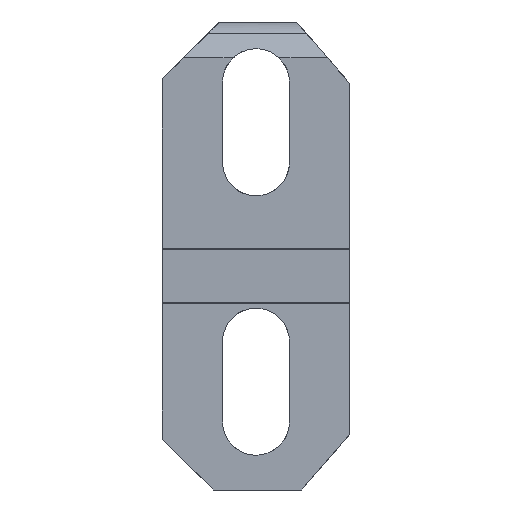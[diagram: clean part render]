
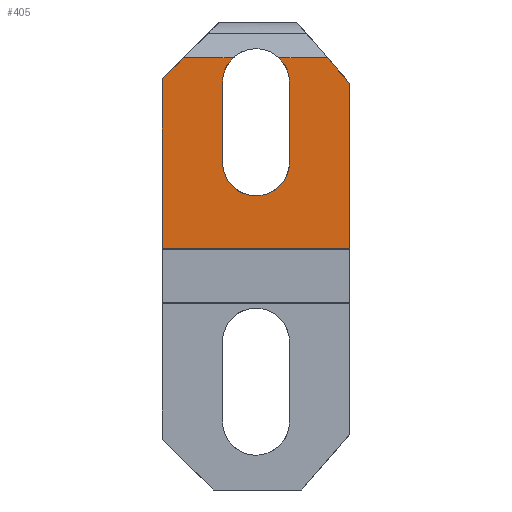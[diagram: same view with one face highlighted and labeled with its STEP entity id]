
A CAD part, left-side view. The second image highlights one B-rep face of the part: STEP entity #405.
In plain terms, the highlighted planar face has unit normal (-1, 0, 0).
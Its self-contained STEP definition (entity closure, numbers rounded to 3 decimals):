
#109=CARTESIAN_POINT('Vertex',(-8.2,-5.348,6.425)) ;
#112=CARTESIAN_POINT('Line Origine',(-8.2,-6.174,5.471)) ;
#116=CARTESIAN_POINT('Vertex',(-8.2,-7.,4.518)) ;
#302=CARTESIAN_POINT('Axis2P3D Location',(-8.2,0.,-7.651)) ;
#307=CARTESIAN_POINT('Line Origine',(-8.2,7.,-0.714)) ;
#311=CARTESIAN_POINT('Vertex',(-8.2,7.,-7.851)) ;
#313=CARTESIAN_POINT('Vertex',(-8.2,7.,4.857)) ;
#316=CARTESIAN_POINT('Line Origine',(-8.2,0.,-7.851)) ;
#320=CARTESIAN_POINT('Vertex',(-8.2,-7.,-7.851)) ;
#323=CARTESIAN_POINT('Line Origine',(-8.2,-7.,-0.714)) ;
#328=CARTESIAN_POINT('Line Origine',(-8.2,0.,6.425)) ;
#332=CARTESIAN_POINT('Vertex',(-8.2,-1.708,6.425)) ;
#336=CARTESIAN_POINT('Control Point',(-8.2,-2.5,4.599)) ;
#337=CARTESIAN_POINT('Control Point',(-8.2,-2.5,5.111)) ;
#338=CARTESIAN_POINT('Control Point',(-8.2,-2.36,5.623)) ;
#339=CARTESIAN_POINT('Control Point',(-8.2,-2.082,6.075)) ;
#340=CARTESIAN_POINT('Control Point',(-8.2,-1.708,6.425)) ;
#341=CARTESIAN_POINT('Vertex',(-8.2,-2.5,4.599)) ;
#344=CARTESIAN_POINT('Line Origine',(-8.2,-2.5,-0.714)) ;
#348=CARTESIAN_POINT('Vertex',(-8.2,-2.5,-1.401)) ;
#352=CARTESIAN_POINT('Control Point',(-8.2,2.5,-1.401)) ;
#353=CARTESIAN_POINT('Control Point',(-8.2,2.5,-2.186)) ;
#354=CARTESIAN_POINT('Control Point',(-8.2,2.192,-2.971)) ;
#355=CARTESIAN_POINT('Control Point',(-8.2,1.571,-3.592)) ;
#356=CARTESIAN_POINT('Control Point',(-8.2,0.,-4.209)) ;
#357=CARTESIAN_POINT('Control Point',(-8.2,-1.571,-3.592)) ;
#358=CARTESIAN_POINT('Control Point',(-8.2,-2.192,-2.971)) ;
#359=CARTESIAN_POINT('Control Point',(-8.2,-2.5,-2.186)) ;
#360=CARTESIAN_POINT('Control Point',(-8.2,-2.5,-1.401)) ;
#361=CARTESIAN_POINT('Vertex',(-8.2,2.5,-1.401)) ;
#364=CARTESIAN_POINT('Line Origine',(-8.2,2.5,-0.714)) ;
#368=CARTESIAN_POINT('Vertex',(-8.2,2.5,4.599)) ;
#372=CARTESIAN_POINT('Control Point',(-8.2,1.708,6.425)) ;
#373=CARTESIAN_POINT('Control Point',(-8.2,2.082,6.075)) ;
#374=CARTESIAN_POINT('Control Point',(-8.2,2.36,5.623)) ;
#375=CARTESIAN_POINT('Control Point',(-8.2,2.5,5.111)) ;
#376=CARTESIAN_POINT('Control Point',(-8.2,2.5,4.599)) ;
#377=CARTESIAN_POINT('Vertex',(-8.2,1.708,6.425)) ;
#380=CARTESIAN_POINT('Line Origine',(-8.2,0.,6.425)) ;
#384=CARTESIAN_POINT('Vertex',(-8.2,5.432,6.425)) ;
#388=CARTESIAN_POINT('Control Point',(-8.2,7.,4.857)) ;
#389=CARTESIAN_POINT('Control Point',(-8.2,5.432,6.425)) ;
#113=DIRECTION('Vector Direction',(0.,-0.655,-0.756)) ;
#303=DIRECTION('Axis2P3D Direction',(-1.,0.,0.)) ;
#304=DIRECTION('Axis2P3D XDirection',(0.,0.,1.)) ;
#308=DIRECTION('Vector Direction',(0.,0.,1.)) ;
#317=DIRECTION('Vector Direction',(0.,1.,0.)) ;
#324=DIRECTION('Vector Direction',(0.,0.,1.)) ;
#329=DIRECTION('Vector Direction',(0.,1.,0.)) ;
#345=DIRECTION('Vector Direction',(0.,0.,1.)) ;
#365=DIRECTION('Vector Direction',(0.,0.,1.)) ;
#381=DIRECTION('Vector Direction',(0.,1.,0.)) ;
#305=AXIS2_PLACEMENT_3D('Plane Axis2P3D',#302,#303,#304) ;
#392=ORIENTED_EDGE('',*,*,#315,.F.) ;
#393=ORIENTED_EDGE('',*,*,#322,.F.) ;
#394=ORIENTED_EDGE('',*,*,#327,.T.) ;
#395=ORIENTED_EDGE('',*,*,#118,.F.) ;
#396=ORIENTED_EDGE('',*,*,#334,.T.) ;
#397=ORIENTED_EDGE('',*,*,#343,.F.) ;
#398=ORIENTED_EDGE('',*,*,#350,.F.) ;
#399=ORIENTED_EDGE('',*,*,#363,.F.) ;
#400=ORIENTED_EDGE('',*,*,#370,.F.) ;
#401=ORIENTED_EDGE('',*,*,#379,.F.) ;
#402=ORIENTED_EDGE('',*,*,#386,.T.) ;
#403=ORIENTED_EDGE('',*,*,#390,.F.) ;
#114=VECTOR('Line Direction',#113,1.) ;
#309=VECTOR('Line Direction',#308,1.) ;
#318=VECTOR('Line Direction',#317,1.) ;
#325=VECTOR('Line Direction',#324,1.) ;
#330=VECTOR('Line Direction',#329,1.) ;
#346=VECTOR('Line Direction',#345,1.) ;
#366=VECTOR('Line Direction',#365,1.) ;
#382=VECTOR('Line Direction',#381,1.) ;
#405=ADVANCED_FACE('PartBody',(#404),#306,.T.) ;
#335=B_SPLINE_CURVE_WITH_KNOTS('',4,(#336,#337,#338,#339,#340),.UNSPECIFIED.,.F.,.U.,(5,5),(11.781,13.827),.UNSPECIFIED.) ;
#351=B_SPLINE_CURVE_WITH_KNOTS('',5,(#352,#353,#354,#355,#356,#357,#358,#359,#360),.UNSPECIFIED.,.F.,.U.,(6,3,6),(3.927,7.854,11.781),.UNSPECIFIED.) ;
#371=B_SPLINE_CURVE_WITH_KNOTS('',4,(#372,#373,#374,#375,#376),.UNSPECIFIED.,.F.,.U.,(5,5),(17.589,19.635),.UNSPECIFIED.) ;
#387=B_SPLINE_CURVE_WITH_KNOTS('',1,(#388,#389),.UNSPECIFIED.,.F.,.U.,(2,2),(-1.109,1.109),.UNSPECIFIED.) ;
#118=EDGE_CURVE('',#110,#117,#115,.T.) ;
#315=EDGE_CURVE('',#312,#314,#310,.T.) ;
#322=EDGE_CURVE('',#321,#312,#319,.T.) ;
#327=EDGE_CURVE('',#321,#117,#326,.T.) ;
#334=EDGE_CURVE('',#110,#333,#331,.T.) ;
#343=EDGE_CURVE('',#342,#333,#335,.T.) ;
#350=EDGE_CURVE('',#349,#342,#347,.T.) ;
#363=EDGE_CURVE('',#362,#349,#351,.T.) ;
#370=EDGE_CURVE('',#369,#362,#367,.F.) ;
#379=EDGE_CURVE('',#378,#369,#371,.T.) ;
#386=EDGE_CURVE('',#378,#385,#383,.T.) ;
#390=EDGE_CURVE('',#314,#385,#387,.T.) ;
#391=EDGE_LOOP('',(#392,#393,#394,#395,#396,#397,#398,#399,#400,#401,#402,#403)) ;
#404=FACE_OUTER_BOUND('',#391,.T.) ;
#115=LINE('Line',#112,#114) ;
#310=LINE('Line',#307,#309) ;
#319=LINE('Line',#316,#318) ;
#326=LINE('Line',#323,#325) ;
#331=LINE('Line',#328,#330) ;
#347=LINE('Line',#344,#346) ;
#367=LINE('Line',#364,#366) ;
#383=LINE('Line',#380,#382) ;
#306=PLANE('',#305) ;
#110=VERTEX_POINT('',#109) ;
#117=VERTEX_POINT('',#116) ;
#312=VERTEX_POINT('',#311) ;
#314=VERTEX_POINT('',#313) ;
#321=VERTEX_POINT('',#320) ;
#333=VERTEX_POINT('',#332) ;
#342=VERTEX_POINT('',#341) ;
#349=VERTEX_POINT('',#348) ;
#362=VERTEX_POINT('',#361) ;
#369=VERTEX_POINT('',#368) ;
#378=VERTEX_POINT('',#377) ;
#385=VERTEX_POINT('',#384) ;
